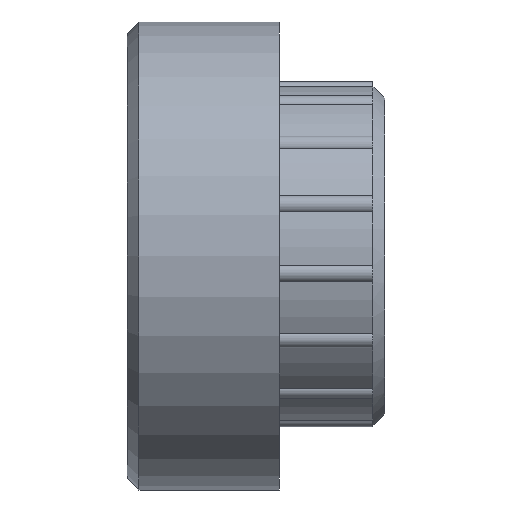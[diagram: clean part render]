
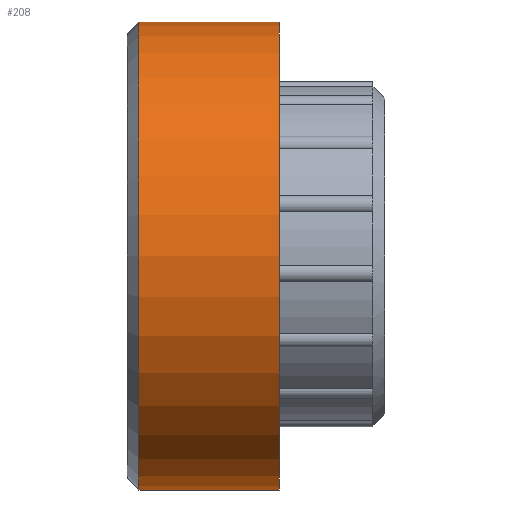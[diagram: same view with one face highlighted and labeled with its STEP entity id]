
A CAD part, left-side view. The second image highlights one B-rep face of the part: STEP entity #208.
In plain terms, the highlighted cylindrical face has radius 10 mm (diameter 20 mm), a partial arc.
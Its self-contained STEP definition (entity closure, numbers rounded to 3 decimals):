
#111 = LINE ( 'NONE', #144, #1027 ) ;
#144 = CARTESIAN_POINT ( 'NONE',  ( 0., 5.5, -10. ) ) ;
#146 = CARTESIAN_POINT ( 'NONE',  ( 0., -1., 0. ) ) ;
#162 = EDGE_CURVE ( 'NONE', #913, #234, #111, .T. ) ;
#208 = ADVANCED_FACE ( 'NONE', ( #1363 ), #1073, .T. ) ;
#230 = CARTESIAN_POINT ( 'NONE',  ( 0., 5., -10. ) ) ;
#234 = VERTEX_POINT ( 'NONE', #619 ) ;
#396 = EDGE_CURVE ( 'NONE', #935, #1473, #1560, .T. ) ;
#517 = ORIENTED_EDGE ( 'NONE', *, *, #1503, .F. ) ;
#532 = CARTESIAN_POINT ( 'NONE',  ( 0., -1., 10. ) ) ;
#548 = DIRECTION ( 'NONE',  ( 0., -1., 0. ) ) ;
#604 = DIRECTION ( 'NONE',  ( 0., -1., 0. ) ) ;
#619 = CARTESIAN_POINT ( 'NONE',  ( 0., -1., -10. ) ) ;
#635 = CARTESIAN_POINT ( 'NONE',  ( 0., 5., 0. ) ) ;
#648 = AXIS2_PLACEMENT_3D ( 'NONE', #635, #1698, #1964 ) ;
#697 = CARTESIAN_POINT ( 'NONE',  ( 0., 5.5, 10. ) ) ;
#719 = AXIS2_PLACEMENT_3D ( 'NONE', #953, #548, #1337 ) ;
#913 = VERTEX_POINT ( 'NONE', #230 ) ;
#935 = VERTEX_POINT ( 'NONE', #1858 ) ;
#953 = CARTESIAN_POINT ( 'NONE',  ( 0., 5.5, 0. ) ) ;
#1001 = ORIENTED_EDGE ( 'NONE', *, *, #396, .F. ) ;
#1027 = VECTOR ( 'NONE', #1735, 1000. ) ;
#1062 = CIRCLE ( 'NONE', #648, 10. ) ;
#1073 = CYLINDRICAL_SURFACE ( 'NONE', #719, 10. ) ;
#1114 = ORIENTED_EDGE ( 'NONE', *, *, #1467, .T. ) ;
#1286 = CIRCLE ( 'NONE', #1595, 10. ) ;
#1289 = ORIENTED_EDGE ( 'NONE', *, *, #162, .T. ) ;
#1337 = DIRECTION ( 'NONE',  ( 0., 0., -1. ) ) ;
#1363 = FACE_OUTER_BOUND ( 'NONE', #1569, .T. ) ;
#1467 = EDGE_CURVE ( 'NONE', #935, #913, #1062, .T. ) ;
#1469 = VECTOR ( 'NONE', #1490, 1000. ) ;
#1473 = VERTEX_POINT ( 'NONE', #532 ) ;
#1490 = DIRECTION ( 'NONE',  ( 0., -1., 0. ) ) ;
#1503 = EDGE_CURVE ( 'NONE', #1473, #234, #1286, .T. ) ;
#1548 = DIRECTION ( 'NONE',  ( 0., 0., -1. ) ) ;
#1560 = LINE ( 'NONE', #697, #1469 ) ;
#1569 = EDGE_LOOP ( 'NONE', ( #1001, #1114, #1289, #517 ) ) ;
#1595 = AXIS2_PLACEMENT_3D ( 'NONE', #146, #604, #1548 ) ;
#1698 = DIRECTION ( 'NONE',  ( 0., -1., 0. ) ) ;
#1735 = DIRECTION ( 'NONE',  ( 0., -1., 0. ) ) ;
#1858 = CARTESIAN_POINT ( 'NONE',  ( 0., 5., 10. ) ) ;
#1964 = DIRECTION ( 'NONE',  ( 0., 0., 1. ) ) ;
